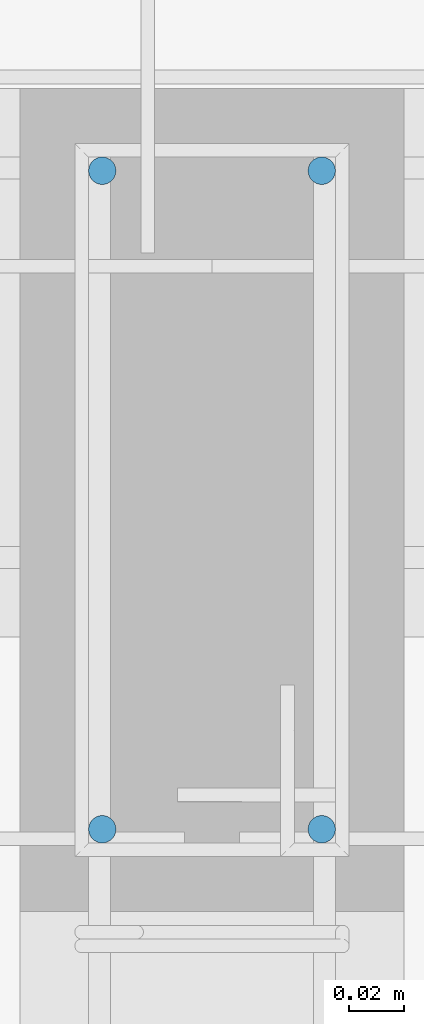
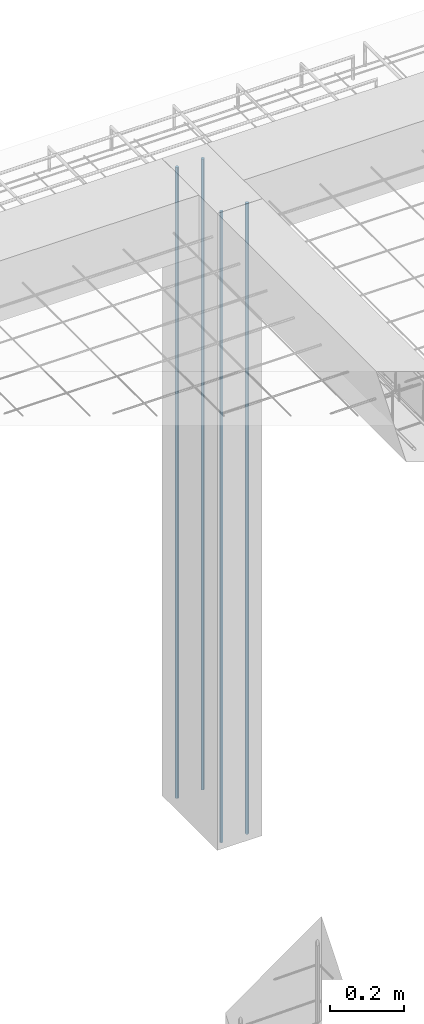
# One storey, part 39 of 236: 4 reinforcing bars.
"""IFC4 building model written with IfcOpenShell, lengths in centimetres."""

from ifc_helpers import new_model, entity, si_unit, derived_unit, frame, origin_with_axes, place, context, project, spatial, element, save


model = new_model("IFC4")

# Units and contexts
model_context = context("Model", 3, precision=1e-05, world=origin_with_axes(), identifier="Body")
ifc_project = project(units=[si_unit("LENGTHUNIT", "METRE", prefix="CENTI"), si_unit("VOLUMEUNIT", "CUBIC_METRE"), si_unit("AREAUNIT", "SQUARE_METRE"), si_unit("POWERUNIT", "WATT"), si_unit("LUMINOUSFLUXUNIT", "LUMEN"), si_unit("ELECTRICCURRENTUNIT", "AMPERE"), si_unit("PRESSUREUNIT", "PASCAL", prefix="KILO"), si_unit("MASSUNIT", "GRAM", prefix="KILO"), si_unit("PLANEANGLEUNIT", "RADIAN"), derived_unit("VOLUMETRICFLOWRATEUNIT", [(si_unit("LENGTHUNIT", "METRE"), 3), (si_unit("TIMEUNIT", "SECOND"), -1)])], contexts=[model_context])

# Site, building, storey
site_placement = place(None, frame((-4000.0, 0.0, 0.0), z_axis=(0.0, 0.0, 1.0), x_axis=(1.0, 0.0, 0.0)))
site = spatial("IfcSite", under=ifc_project, at=site_placement, Name="PADRÃO")
building_placement = place(site_placement, frame((0.0, 0.0, -14.0)))
building = spatial("IfcBuilding", under=site, at=building_placement, Name="CRECHE PRÉ-ESCOLA TIPO 2")
placement_1 = place(building_placement, origin_with_axes())
placement_2 = place(placement_1, frame((0.0, 0.0, 30.0), z_axis=(0.0, 0.0, 1.0), x_axis=(1.0, 0.0, 0.0)))
storey_placement = place(placement_2, frame((0.0, 0.0, 310.0), z_axis=(0.0, 0.0, 1.0), x_axis=(1.0, 0.0, 0.0)))
storey = spatial("IfcBuildingStorey", under=building, at=storey_placement, Name="TERREO", CompositionType="ELEMENT", Elevation=326.0)

# Reinforcing bars
for number, where, z_axis, x_axis, name in (
    (1, (2841.49, 194.5, -102.0), (0.0, 0.0, 1.0), (1.0, 0.0, 0.0), "P153 - Longitudinal"),
    (2, (2833.49, 194.5, -102.0), (0.0, 0.0, 1.0), (1.0, 0.0, 0.0), "P153 - Longitudinal"),
    (3, (2841.49, 170.5, -102.0), (0.0, 0.0, 1.0), (1.0, 0.0, 0.0), "P153 - Longitudinal"),
    (4, (2833.49, 170.5, -102.0), (0.0, 0.0, 1.0), (1.0, 0.0, 0.0), "P153 - Longitudinal"),
):
    element("IfcReinforcingBar", number, at=place(storey_placement, frame(where, z_axis=z_axis, x_axis=x_axis)), inside=storey, Name=name, BarLength=0.0, CrossSectionArea=7.853981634e-05, NominalDiameter=1.0, PredefinedType="MAIN", context=model_context, shape_type="AdvancedSweptSolid", body=[
        entity("IfcSweptDiskSolid", entity("IfcCompositeCurve", [entity("IfcCompositeCurveSegment", "CONTINUOUS", True, entity("IfcPolyline", [entity("IfcCartesianPoint", [0.0, 0.0, -208.0]), entity("IfcCartesianPoint", [0.0, 0.0, 0.0])]))], False), 0.5),
    ])

save(model, "model.ifc")
